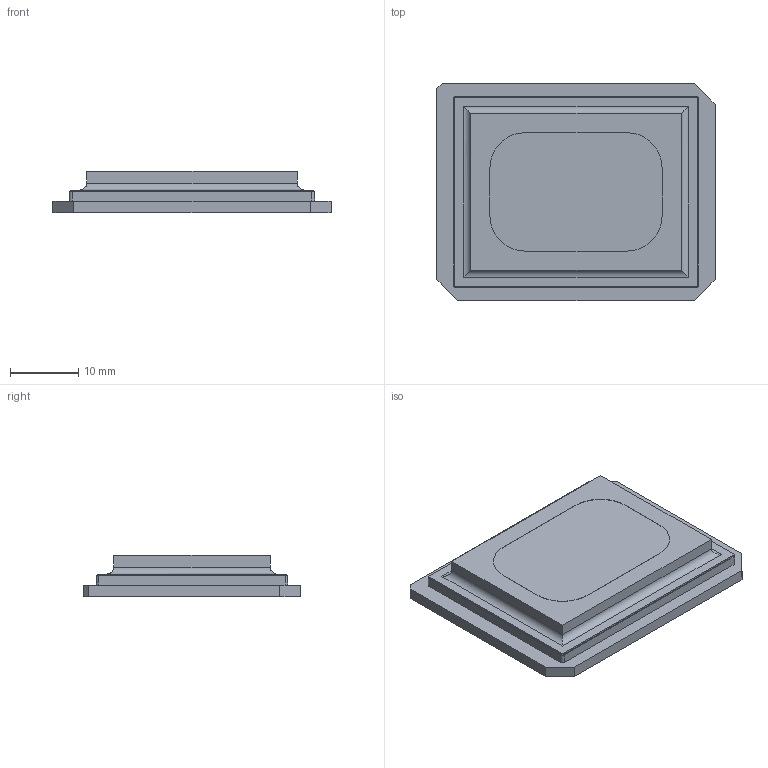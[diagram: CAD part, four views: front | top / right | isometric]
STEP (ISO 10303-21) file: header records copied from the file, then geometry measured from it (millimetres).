
FILE_DESCRIPTION (( 'STEP AP214' ), '1' );
FILE_NAME ('2509520-TA-67WUXGA-DMD-Assy.STEP', '2018-01-05T13:06:45', ( '' ), ( '' ), 'SwSTEP 2.0', 'SolidWorks 2017', '' );
FILE_SCHEMA (( 'AUTOMOTIVE_DESIGN' ));
Length unit declared in the file: millimetre
Products named in the file (3): 2509520-TA-7-wglass; 2509520-TA-67WUXGA-ceramic; 2509520-TA-67WUXGA-DMD-Assy
Assembly tree (2 placements, depth 2):
  2509520-TA-67WUXGA-DMD-Assy
    2509520-TA-67WUXGA-ceramic
    2509520-TA-7-wglass
Bounding box: 40.64 x 31.75 x 6.01 mm (x, y, z)
Volume: 4789.2 mm3; surface area: 5756.4 mm2
Topology: 2 solids, 2 shells, 80 faces, 200 edges, 132 vertices
Faces by surface type: plane 56, cylinder 24
Entity records: 2482 total; most frequent: CARTESIAN_POINT 429, DIRECTION 406, ORIENTED_EDGE 400, EDGE_CURVE 200, LINE 156, VECTOR 156, VERTEX_POINT 132, AXIS2_PLACEMENT_3D 125
